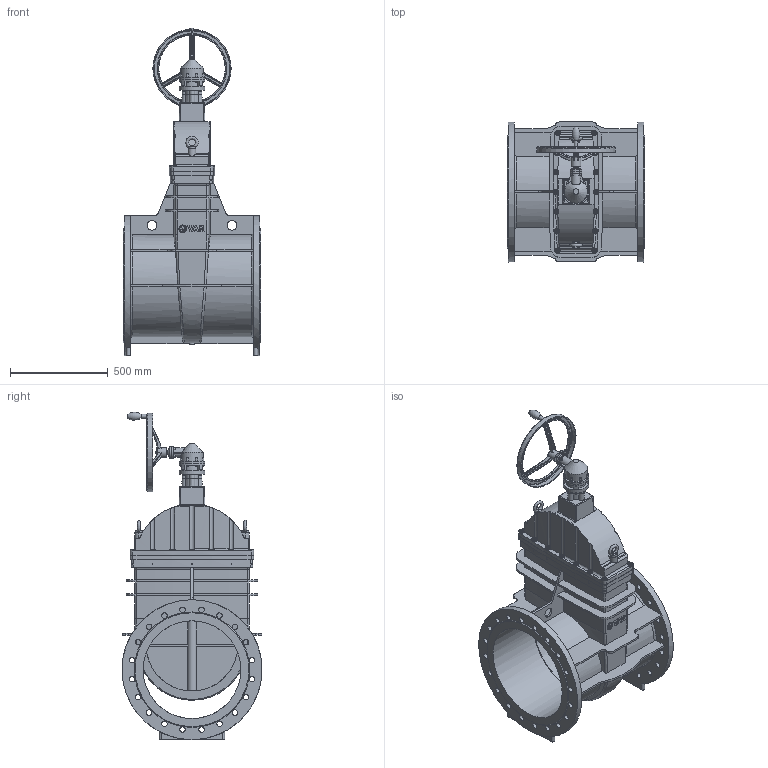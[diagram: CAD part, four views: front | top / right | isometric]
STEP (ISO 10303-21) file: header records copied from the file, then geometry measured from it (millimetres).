
FILE_DESCRIPTION(('STEP AP242'), '1');
FILE_NAME('青溻桄赅', '', ('UNSPECIFIED'), ('UNSPECIFIED'), 'C3D Converter', 'C3D Toolkit', '');
FILE_SCHEMA(('AP242_MANAGED_MODEL_BASED_3D_ENGINEERING_MIM_LF { 1 0 10303 442 1 1 4 }'));
Length unit declared in the file: millimetre
Assembly tree (43 placements, depth 3):
  (unnamed)
    (unnamed)
    (unnamed)
      (unnamed)  x2
    (unnamed)
    (unnamed)  x2
    (unnamed)
    (unnamed)
    (unnamed)
    (unnamed)
    (unnamed)
    (unnamed)  x14
    (unnamed)  x4
    (unnamed)  x12
    (unnamed)
Bounding box: 700 x 715 x 1672.32 mm (x, y, z)
Volume: 58040638.4 mm3; surface area: 8119752.1 mm2
Topology: 49 solids, 49 shells, 1951 faces, 4700 edges, 2946 vertices
Faces by surface type: plane 950, cylinder 506, cone 180, extrusion 143, bspline 95, torus 77
Full cylindrical faces by diameter (mm): 3 x12, 4 x36, 6 x7, 7 x12, 8 x12, 10 x14, 12 x64, 13 x4, 16 x4, 18 x32, 20 x5, 28 x40, 29 x10, 38.88 x1, 40 x1, 50 x8, 60 x2, 101.639 x2, 117.097 x1, 132.554 x3, 340 x1, 350 x1, 390 x1, 400 x1, 468.5 x2, 500 x4, 537.8 x4, 563 x1, 715 x2
Entity records: 75699 total; most frequent: CARTESIAN_POINT 41757, ORIENTED_EDGE 6096, DIRECTION 5740, EDGE_CURVE 3048, AXIS2_PLACEMENT_3D 2189, VERTEX_POINT 2112, EDGE_LOOP 1869, FACE_BOUND 1415
